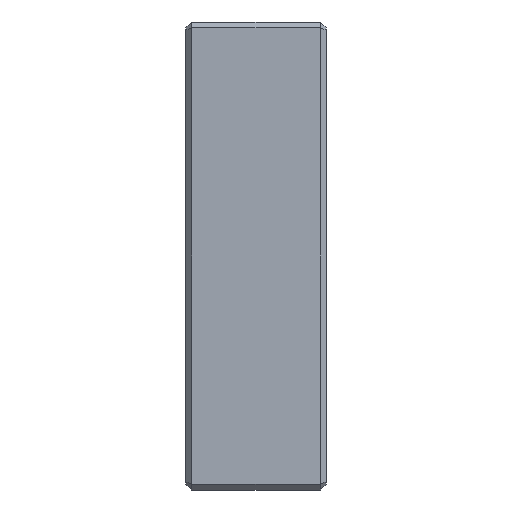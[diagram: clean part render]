
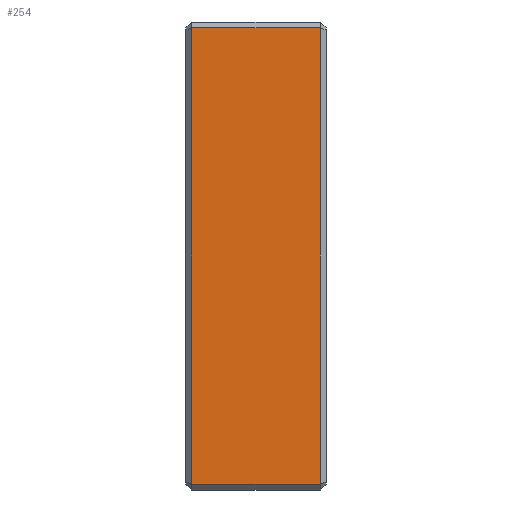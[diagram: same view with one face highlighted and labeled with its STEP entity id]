
A CAD part, left-side view. The second image highlights one B-rep face of the part: STEP entity #254.
In plain terms, the highlighted planar face has unit normal (-1, 0, 0).
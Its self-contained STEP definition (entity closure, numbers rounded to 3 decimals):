
#98 = LINE ( 'NONE', #1681, #119 ) ;
#119 = VECTOR ( 'NONE', #865, 1000. ) ;
#122 = PLANE ( 'NONE',  #169 ) ;
#127 = EDGE_LOOP ( 'NONE', ( #721, #470, #1806, #560 ) ) ;
#169 = AXIS2_PLACEMENT_3D ( 'NONE', #1811, #1208, #1648 ) ;
#254 = ADVANCED_FACE ( 'NONE', ( #717 ), #122, .F. ) ;
#259 = LINE ( 'NONE', #432, #1299 ) ;
#288 = LINE ( 'NONE', #1829, #935 ) ;
#409 = VERTEX_POINT ( 'NONE', #629 ) ;
#432 = CARTESIAN_POINT ( 'NONE',  ( -37., -5.5, -20. ) ) ;
#470 = ORIENTED_EDGE ( 'NONE', *, *, #502, .T. ) ;
#502 = EDGE_CURVE ( 'NONE', #843, #1668, #259, .T. ) ;
#560 = ORIENTED_EDGE ( 'NONE', *, *, #1707, .T. ) ;
#629 = CARTESIAN_POINT ( 'NONE',  ( -37., 5.5, -19.5 ) ) ;
#633 = DIRECTION ( 'NONE',  ( 0., 1., 0. ) ) ;
#694 = EDGE_CURVE ( 'NONE', #1668, #1858, #288, .T. ) ;
#717 = FACE_OUTER_BOUND ( 'NONE', #127, .T. ) ;
#721 = ORIENTED_EDGE ( 'NONE', *, *, #1021, .T. ) ;
#741 = LINE ( 'NONE', #1956, #997 ) ;
#843 = VERTEX_POINT ( 'NONE', #951 ) ;
#865 = DIRECTION ( 'NONE',  ( 0., 0., -1. ) ) ;
#935 = VECTOR ( 'NONE', #633, 1000. ) ;
#951 = CARTESIAN_POINT ( 'NONE',  ( -37., -5.5, -19.5 ) ) ;
#972 = CARTESIAN_POINT ( 'NONE',  ( -37., -5.5, 19.5 ) ) ;
#997 = VECTOR ( 'NONE', #1198, 1000. ) ;
#1021 = EDGE_CURVE ( 'NONE', #409, #843, #741, .T. ) ;
#1198 = DIRECTION ( 'NONE',  ( 0., -1., 0. ) ) ;
#1208 = DIRECTION ( 'NONE',  ( 1., 0., 0. ) ) ;
#1284 = CARTESIAN_POINT ( 'NONE',  ( -37., 5.5, 19.5 ) ) ;
#1299 = VECTOR ( 'NONE', #1802, 1000. ) ;
#1648 = DIRECTION ( 'NONE',  ( 0., 0., -1. ) ) ;
#1668 = VERTEX_POINT ( 'NONE', #972 ) ;
#1681 = CARTESIAN_POINT ( 'NONE',  ( -37., 5.5, -19.5 ) ) ;
#1707 = EDGE_CURVE ( 'NONE', #1858, #409, #98, .T. ) ;
#1802 = DIRECTION ( 'NONE',  ( 0., 0., 1. ) ) ;
#1806 = ORIENTED_EDGE ( 'NONE', *, *, #694, .T. ) ;
#1811 = CARTESIAN_POINT ( 'NONE',  ( -37., 6., -20. ) ) ;
#1829 = CARTESIAN_POINT ( 'NONE',  ( -37., 6., 19.5 ) ) ;
#1858 = VERTEX_POINT ( 'NONE', #1284 ) ;
#1956 = CARTESIAN_POINT ( 'NONE',  ( -37., 6., -19.5 ) ) ;
